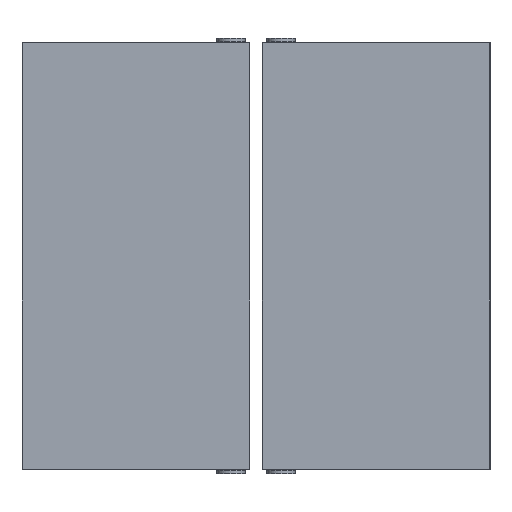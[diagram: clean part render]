
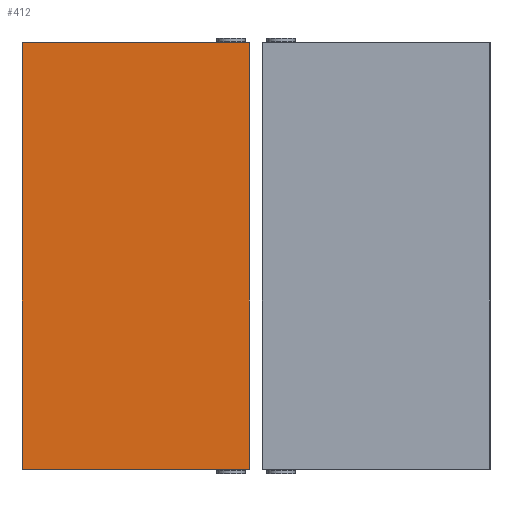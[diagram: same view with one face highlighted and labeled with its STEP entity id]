
A CAD part, top view. The second image highlights one B-rep face of the part: STEP entity #412.
In plain terms, the highlighted planar face has unit normal (-0.002, 0, 1).
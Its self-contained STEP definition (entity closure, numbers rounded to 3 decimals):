
#81 = VERTEX_POINT ( 'NONE', #1477 ) ;
#82 = LINE ( 'NONE', #251, #1181 ) ;
#251 = CARTESIAN_POINT ( 'NONE',  ( 159.5, 0., 0. ) ) ;
#300 = DIRECTION ( 'NONE',  ( 0., 0., 1. ) ) ;
#350 = CARTESIAN_POINT ( 'NONE',  ( -159.5, 300., 0. ) ) ;
#360 = CARTESIAN_POINT ( 'NONE',  ( -159.5, 0., 0. ) ) ;
#412 = ADVANCED_FACE ( 'NONE', ( #2047 ), #1344, .T. ) ;
#502 = LINE ( 'NONE', #360, #1082 ) ;
#566 = ORIENTED_EDGE ( 'NONE', *, *, #1479, .T. ) ;
#886 = LINE ( 'NONE', #1562, #1690 ) ;
#951 = DIRECTION ( 'NONE',  ( 0., 1., 0. ) ) ;
#1031 = DIRECTION ( 'NONE',  ( 1., 0., 0. ) ) ;
#1071 = DIRECTION ( 'NONE',  ( 0., -1., 0. ) ) ;
#1082 = VECTOR ( 'NONE', #1071, 1000. ) ;
#1181 = VECTOR ( 'NONE', #951, 1000. ) ;
#1182 = ORIENTED_EDGE ( 'NONE', *, *, #1421, .T. ) ;
#1183 = VECTOR ( 'NONE', #1884, 1000. ) ;
#1246 = CARTESIAN_POINT ( 'NONE',  ( 159.5, -300., 0. ) ) ;
#1344 = PLANE ( 'NONE',  #1912 ) ;
#1361 = CARTESIAN_POINT ( 'NONE',  ( 159.5, 300., 0. ) ) ;
#1404 = CARTESIAN_POINT ( 'NONE',  ( -160., -300., 0. ) ) ;
#1421 = EDGE_CURVE ( 'NONE', #81, #1716, #1896, .T. ) ;
#1425 = VERTEX_POINT ( 'NONE', #350 ) ;
#1454 = VERTEX_POINT ( 'NONE', #1361 ) ;
#1477 = CARTESIAN_POINT ( 'NONE',  ( -159.5, -300., 0. ) ) ;
#1479 = EDGE_CURVE ( 'NONE', #1454, #1425, #886, .T. ) ;
#1495 = ORIENTED_EDGE ( 'NONE', *, *, #2118, .T. ) ;
#1562 = CARTESIAN_POINT ( 'NONE',  ( -160., 300., 0. ) ) ;
#1575 = EDGE_CURVE ( 'NONE', #1425, #81, #502, .T. ) ;
#1600 = ORIENTED_EDGE ( 'NONE', *, *, #1575, .T. ) ;
#1690 = VECTOR ( 'NONE', #1906, 1000. ) ;
#1716 = VERTEX_POINT ( 'NONE', #1246 ) ;
#1878 = CARTESIAN_POINT ( 'NONE',  ( 0., 0., 0. ) ) ;
#1884 = DIRECTION ( 'NONE',  ( 1., 0., 0. ) ) ;
#1896 = LINE ( 'NONE', #1404, #1183 ) ;
#1906 = DIRECTION ( 'NONE',  ( -1., 0., 0. ) ) ;
#1912 = AXIS2_PLACEMENT_3D ( 'NONE', #1878, #300, #1031 ) ;
#2047 = FACE_OUTER_BOUND ( 'NONE', #2177, .T. ) ;
#2118 = EDGE_CURVE ( 'NONE', #1716, #1454, #82, .T. ) ;
#2177 = EDGE_LOOP ( 'NONE', ( #566, #1600, #1182, #1495 ) ) ;
